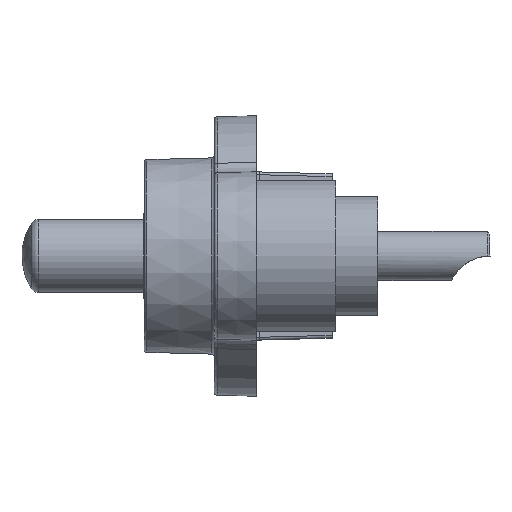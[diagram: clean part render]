
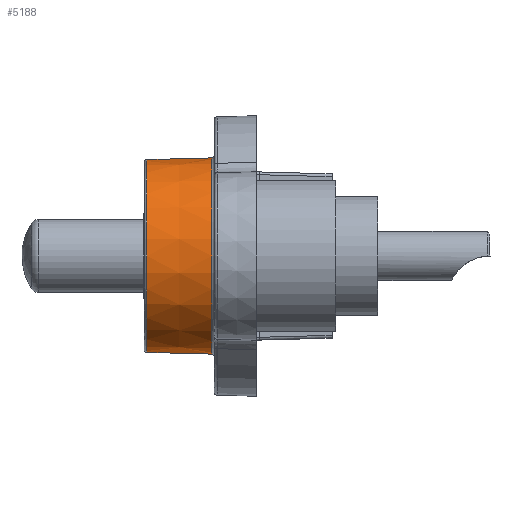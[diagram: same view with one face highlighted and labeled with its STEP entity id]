
A CAD part, left-side view. The second image highlights one B-rep face of the part: STEP entity #5188.
In plain terms, the highlighted conical face has half-angle 1.5 degrees and reference radius 3.497 mm.
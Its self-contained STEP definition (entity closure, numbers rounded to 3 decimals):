
#84 = EDGE_LOOP ( 'NONE', ( #1859, #5222, #869, #5034 ) ) ;
#456 = DIRECTION ( 'NONE',  ( 0., 0., -1. ) ) ;
#718 = EDGE_CURVE ( 'NONE', #2718, #4142, #3202, .T. ) ;
#827 = AXIS2_PLACEMENT_3D ( 'NONE', #5504, #3776, #4963 ) ;
#869 = ORIENTED_EDGE ( 'NONE', *, *, #1354, .F. ) ;
#1004 = CARTESIAN_POINT ( 'NONE',  ( 0., 1.597, -3.497 ) ) ;
#1019 = CARTESIAN_POINT ( 'NONE',  ( 0., 1.5, 3.5 ) ) ;
#1123 = DIRECTION ( 'NONE',  ( 0., 1., 0. ) ) ;
#1157 = AXIS2_PLACEMENT_3D ( 'NONE', #4708, #4218, #456 ) ;
#1354 = EDGE_CURVE ( 'NONE', #2181, #4142, #4669, .T. ) ;
#1447 = LINE ( 'NONE', #1019, #4956 ) ;
#1473 = DIRECTION ( 'NONE',  ( 0., -1., 0.026 ) ) ;
#1663 = DIRECTION ( 'NONE',  ( 0., 1., 0.026 ) ) ;
#1850 = CONICAL_SURFACE ( 'NONE', #1157, 3.497, 0.026 ) ;
#1859 = ORIENTED_EDGE ( 'NONE', *, *, #4426, .F. ) ;
#2181 = VERTEX_POINT ( 'NONE', #1004 ) ;
#2239 = CARTESIAN_POINT ( 'NONE',  ( 0., 1.597, 3.497 ) ) ;
#2574 = VERTEX_POINT ( 'NONE', #2239 ) ;
#2718 = VERTEX_POINT ( 'NONE', #3610 ) ;
#3202 = CIRCLE ( 'NONE', #827, 3.437 ) ;
#3541 = EDGE_CURVE ( 'NONE', #2181, #2574, #5469, .T. ) ;
#3610 = CARTESIAN_POINT ( 'NONE',  ( 0., 3.903, 3.437 ) ) ;
#3776 = DIRECTION ( 'NONE',  ( 0., -1., 0. ) ) ;
#4142 = VERTEX_POINT ( 'NONE', #4333 ) ;
#4218 = DIRECTION ( 'NONE',  ( 0., -1., 0. ) ) ;
#4333 = CARTESIAN_POINT ( 'NONE',  ( 0., 3.903, -3.437 ) ) ;
#4426 = EDGE_CURVE ( 'NONE', #2718, #2574, #1447, .T. ) ;
#4616 = CARTESIAN_POINT ( 'NONE',  ( 0., 1.5, -3.5 ) ) ;
#4640 = AXIS2_PLACEMENT_3D ( 'NONE', #4855, #1123, #5286 ) ;
#4669 = LINE ( 'NONE', #4616, #4985 ) ;
#4708 = CARTESIAN_POINT ( 'NONE',  ( 0., 1.597, 0. ) ) ;
#4855 = CARTESIAN_POINT ( 'NONE',  ( 0., 1.597, 0. ) ) ;
#4956 = VECTOR ( 'NONE', #1473, 1000. ) ;
#4963 = DIRECTION ( 'NONE',  ( 0., 0., -1. ) ) ;
#4985 = VECTOR ( 'NONE', #1663, 1000. ) ;
#5034 = ORIENTED_EDGE ( 'NONE', *, *, #3541, .T. ) ;
#5082 = FACE_OUTER_BOUND ( 'NONE', #84, .T. ) ;
#5188 = ADVANCED_FACE ( 'NONE', ( #5082 ), #1850, .T. ) ;
#5222 = ORIENTED_EDGE ( 'NONE', *, *, #718, .T. ) ;
#5286 = DIRECTION ( 'NONE',  ( 0., 0., 1. ) ) ;
#5469 = CIRCLE ( 'NONE', #4640, 3.497 ) ;
#5504 = CARTESIAN_POINT ( 'NONE',  ( 0., 3.903, 0. ) ) ;
